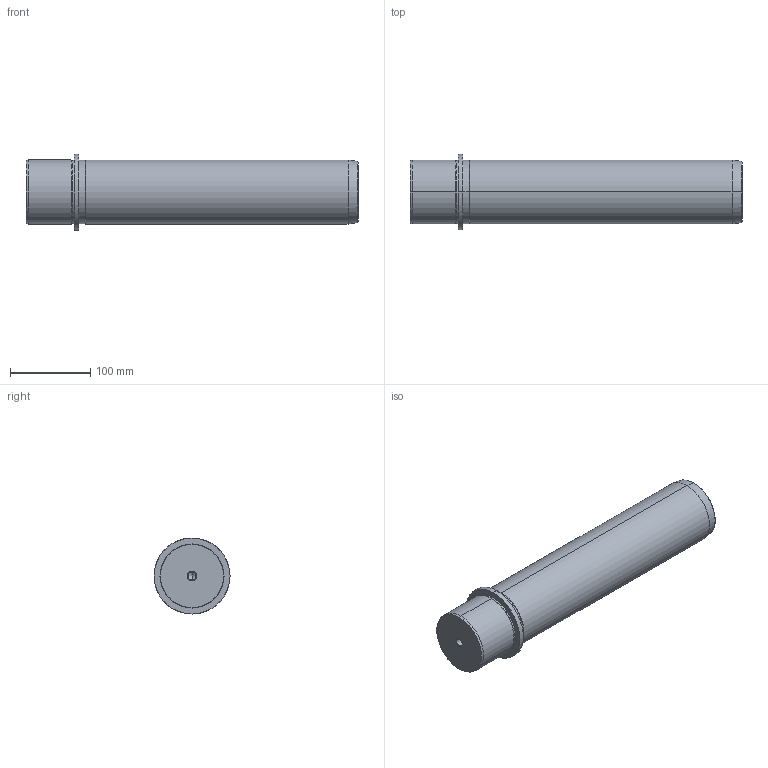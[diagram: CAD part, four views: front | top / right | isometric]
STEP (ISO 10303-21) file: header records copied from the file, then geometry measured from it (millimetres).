
FILE_DESCRIPTION(('CATIA V5 STEP Exchange'),'2;1');
FILE_NAME('C:\Users\Utente\Desktop\IO LAVORO\3D X SITO CF\X SITO\718\718-80x355.stp','2021-01-02T07:33:03+00:00',('none'),('none'),'CATIA Version 5 Release 20 GA (IN-10)','CATIA V5 STEP AP203','none');
FILE_SCHEMA(('CONFIG_CONTROL_DESIGN'));
Length unit declared in the file: millimetre
Products named in the file (1): 718-80x355
Bounding box: 415 x 95 x 95 mm (x, y, z)
Volume: 2090102.3 mm3; surface area: 119930.5 mm2
Topology: 1 solids, 1 shells, 36 faces, 112 edges, 78 vertices
Faces by surface type: cone 16, cylinder 14, plane 4, torus 2
Entity records: 1390 total; most frequent: CARTESIAN_POINT 383, ORIENTED_EDGE 216, DIRECTION 166, EDGE_CURVE 108, AXIS2_PLACEMENT_3D 101, VERTEX_POINT 78, CIRCLE 64, EDGE_LOOP 40
